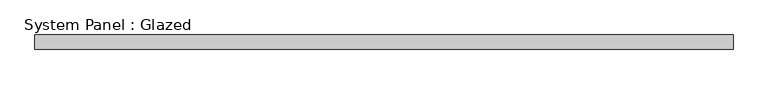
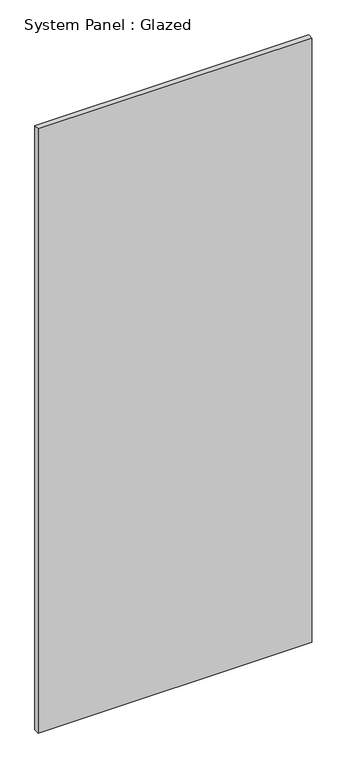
"""IFC4 building model written with IfcOpenShell, lengths in millimetres: plate geometry, System Panel : Glazed."""

from ifc_helpers import new_model, si_unit, origin, origin_with_axes, place, context, project, spatial, polyline, outline, extrude, source, transform, mapped, element, save


def system_panel_glazed_2bf50b74(model_context):
    return source(origin(), model_context, "Body", "SweptSolid", [
        extrude(outline(polyline([(600.0, 0.0), (-600.0, 0.0), (-600.0, 25.0), (600.0, 25.0), (600.0, 0.0)])), origin_with_axes(), (0.0, 0.0, 1.0), 2800.0),
    ])


if __name__ == "__main__":
    model = new_model("IFC4")
    model_context = context("Model", 3, world=origin())
    ifc_project = project(units=[si_unit("LENGTHUNIT", "METRE", prefix="MILLI")], contexts=[model_context])
    site = spatial("IfcSite", under=ifc_project)
    building = spatial("IfcBuilding", under=site)
    placement = place(None, origin())
    system_panel_glazed_shape = system_panel_glazed_2bf50b74(model_context)
    element("IfcPlate", 1, ObjectType="System Panel : Glazed", at=placement, inside=building, context=model_context, shape_type="MappedRepresentation", body=[
        mapped(system_panel_glazed_shape, transform((0.0, 0.0, 0.0), x_axis=(1.0, 0.0, 0.0), y_axis=(0.0, 1.0, 0.0), z_axis=(0.0, 0.0, 1.0))),
    ])
    save(model, "model.ifc")
